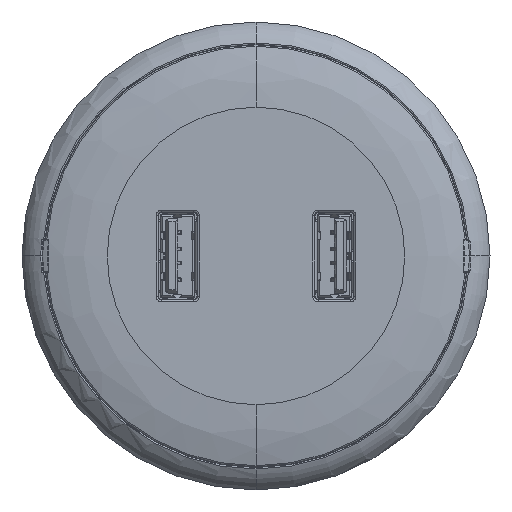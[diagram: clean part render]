
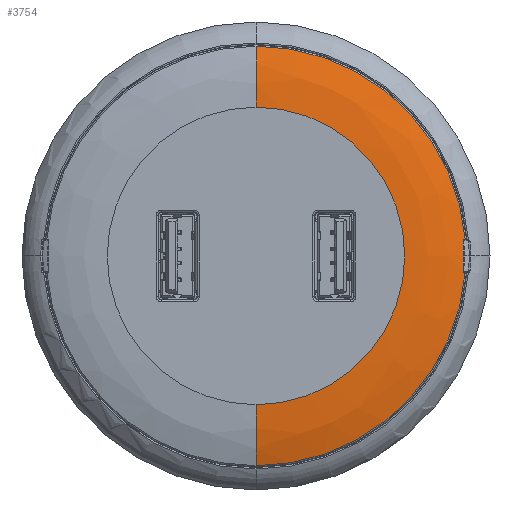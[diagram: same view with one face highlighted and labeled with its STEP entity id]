
A CAD part, top view. The second image highlights one B-rep face of the part: STEP entity #3754.
In plain terms, the highlighted free-form (B-spline) face has degree [3, 3] with [4, 4] control points.
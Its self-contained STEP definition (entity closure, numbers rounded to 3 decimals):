
#629 = CARTESIAN_POINT ( 'NONE',  ( 0., -25.808, 4. ) ) ;
#1438 = ORIENTED_EDGE ( 'NONE', *, *, #25999, .T. ) ;
#1520 = B_SPLINE_CURVE_WITH_KNOTS ( 'NONE', 3,
 ( #34685, #68701, #3364, #46438, #22935, #75265 ),
 .UNSPECIFIED., .F., .F.,
 ( 4, 2, 4 ),
 ( 0., 0., 0.001 ),
 .UNSPECIFIED. ) ;
#1726 = DIRECTION ( 'NONE',  ( 1., 0., 0. ) ) ;
#2134 = EDGE_LOOP ( 'NONE', ( #18185, #40198, #50614, #3885, #17894, #1438, #26773, #25189, #27222 ) ) ;
#3364 = CARTESIAN_POINT ( 'NONE',  ( 30.881, -2.464, 2.674 ) ) ;
#3533 = AXIS2_PLACEMENT_3D ( 'NONE', #35523, #73501, #74815 ) ;
#3754 = ADVANCED_FACE ( 'NONE', ( #26702 ), #12175, .F. ) ;
#3867 = CIRCLE ( 'NONE', #12351, 31.148 ) ;
#3885 = ORIENTED_EDGE ( 'NONE', *, *, #51748, .F. ) ;
#4420 = CARTESIAN_POINT ( 'NONE',  ( 30.749, -2.143, 2.726 ) ) ;
#4603 = CARTESIAN_POINT ( 'NONE',  ( 0., -25.808, 4. ) ) ;
#4825 = CARTESIAN_POINT ( 'NONE',  ( 30.96, 2.51, 2.647 ) ) ;
#5884 = CARTESIAN_POINT ( 'NONE',  ( 0., -31.148, 2.617 ) ) ;
#7659 = DIRECTION ( 'NONE',  ( 1., 0., 0. ) ) ;
#9682 = CARTESIAN_POINT ( 'NONE',  ( 0., 0., 2.726 ) ) ;
#12175 =( BOUNDED_SURFACE ( )  B_SPLINE_SURFACE ( 3, 3, ( 
 ( #72530, #25370, #59414, #27978 ),
 ( #79162, #20172, #35841, #43734 ),
 ( #629, #24078, #46310, #21469 ),
 ( #67282, #69901, #31939, #41121 ) ),
 .UNSPECIFIED., .F., .F., .F. ) 
 B_SPLINE_SURFACE_WITH_KNOTS ( ( 4, 4 ),
 ( 4, 4 ),
 ( 0.524, 1. ),
 ( 0., 1. ),
 .UNSPECIFIED. ) 
 GEOMETRIC_REPRESENTATION_ITEM ( )  RATIONAL_B_SPLINE_SURFACE ( (
 ( 1., 0.333, 0.333, 1.),
 ( 1., 0.333, 0.333, 1.),
 ( 1., 0.333, 0.333, 1.),
 ( 1., 0.333, 0.333, 1.) ) ) 
 REPRESENTATION_ITEM ( '' )  SURFACE ( )  );
#12351 = AXIS2_PLACEMENT_3D ( 'NONE', #50718, #74307, #7659 ) ;
#14219 = AXIS2_PLACEMENT_3D ( 'NONE', #63066, #27735, #1726 ) ;
#15165 = CARTESIAN_POINT ( 'NONE',  ( 0., 22.1, 4. ) ) ;
#15344 = CARTESIAN_POINT ( 'NONE',  ( 31.045, -2.524, 2.617 ) ) ;
#16534 = CARTESIAN_POINT ( 'NONE',  ( 31.045, 2.524, 2.617 ) ) ;
#16632 = B_SPLINE_CURVE_WITH_KNOTS ( 'NONE', 3,
 ( #5884, #62058, #4603, #50315 ),
 .UNSPECIFIED., .F., .F.,
 ( 4, 4 ),
 ( 0.524, 1. ),
 .UNSPECIFIED. ) ;
#17894 = ORIENTED_EDGE ( 'NONE', *, *, #44122, .T. ) ;
#18185 = ORIENTED_EDGE ( 'NONE', *, *, #60612, .T. ) ;
#20172 = CARTESIAN_POINT ( 'NONE',  ( 57.813, -28.907, 3.395 ) ) ;
#21469 = CARTESIAN_POINT ( 'NONE',  ( 0., 25.808, 4. ) ) ;
#21479 = DIRECTION ( 'NONE',  ( 0., 0., 1. ) ) ;
#22935 = CARTESIAN_POINT ( 'NONE',  ( 30.742, -2.234, 2.726 ) ) ;
#24078 = CARTESIAN_POINT ( 'NONE',  ( 51.616, -25.808, 4. ) ) ;
#25189 = ORIENTED_EDGE ( 'NONE', *, *, #39102, .T. ) ;
#25370 = CARTESIAN_POINT ( 'NONE',  ( 62.295, -31.148, 2.617 ) ) ;
#25681 = VERTEX_POINT ( 'NONE', #4420 ) ;
#25999 = EDGE_CURVE ( 'NONE', #39336, #25681, #1520, .T. ) ;
#26184 = CARTESIAN_POINT ( 'NONE',  ( 0., -31.148, 2.617 ) ) ;
#26685 = B_SPLINE_CURVE_WITH_KNOTS ( 'NONE', 3,
 ( #45250, #79416, #76758, #41361, #4825, #16534 ),
 .UNSPECIFIED., .F., .F.,
 ( 4, 2, 4 ),
 ( 0., 0., 0.001 ),
 .UNSPECIFIED. ) ;
#26702 = FACE_OUTER_BOUND ( 'NONE', #2134, .T. ) ;
#26713 = DIRECTION ( 'NONE',  ( 1., 0., 0. ) ) ;
#26773 = ORIENTED_EDGE ( 'NONE', *, *, #55342, .T. ) ;
#27122 = CARTESIAN_POINT ( 'NONE',  ( 0., 31.148, 2.617 ) ) ;
#27222 = ORIENTED_EDGE ( 'NONE', *, *, #75769, .T. ) ;
#27735 = DIRECTION ( 'NONE',  ( 0., 0., 1. ) ) ;
#27978 = CARTESIAN_POINT ( 'NONE',  ( 0., 31.148, 2.617 ) ) ;
#28020 = VERTEX_POINT ( 'NONE', #79096 ) ;
#31319 = VERTEX_POINT ( 'NONE', #15165 ) ;
#31939 = CARTESIAN_POINT ( 'NONE',  ( 44.2, 22.1, 4. ) ) ;
#32316 = VERTEX_POINT ( 'NONE', #69066 ) ;
#34685 = CARTESIAN_POINT ( 'NONE',  ( 31.045, -2.524, 2.617 ) ) ;
#34982 = CIRCLE ( 'NONE', #51987, 30.823 ) ;
#35523 = CARTESIAN_POINT ( 'NONE',  ( 0., 0., 4. ) ) ;
#35841 = CARTESIAN_POINT ( 'NONE',  ( 57.813, 28.907, 3.395 ) ) ;
#36176 = AXIS2_PLACEMENT_3D ( 'NONE', #9682, #38412, #76382 ) ;
#38412 = DIRECTION ( 'NONE',  ( 0., 0., 1. ) ) ;
#39102 = EDGE_CURVE ( 'NONE', #54488, #32316, #34982, .T. ) ;
#39336 = VERTEX_POINT ( 'NONE', #15344 ) ;
#40198 = ORIENTED_EDGE ( 'NONE', *, *, #60777, .T. ) ;
#41121 = CARTESIAN_POINT ( 'NONE',  ( 0., 22.1, 4. ) ) ;
#41361 = CARTESIAN_POINT ( 'NONE',  ( 30.881, 2.463, 2.675 ) ) ;
#43734 = CARTESIAN_POINT ( 'NONE',  ( 0., 28.907, 3.395 ) ) ;
#44122 = EDGE_CURVE ( 'NONE', #79520, #39336, #59208, .T. ) ;
#44580 = CARTESIAN_POINT ( 'NONE',  ( 0., 25.808, 4. ) ) ;
#45250 = CARTESIAN_POINT ( 'NONE',  ( 30.749, 2.143, 2.726 ) ) ;
#46310 = CARTESIAN_POINT ( 'NONE',  ( 51.616, 25.808, 4. ) ) ;
#46438 = CARTESIAN_POINT ( 'NONE',  ( 30.772, -2.325, 2.715 ) ) ;
#46985 = B_SPLINE_CURVE_WITH_KNOTS ( 'NONE', 3,
 ( #48474, #47144, #44580, #60243 ),
 .UNSPECIFIED., .F., .F.,
 ( 4, 4 ),
 ( 0.524, 1. ),
 .UNSPECIFIED. ) ;
#47144 = CARTESIAN_POINT ( 'NONE',  ( 0., 28.907, 3.395 ) ) ;
#48447 = CIRCLE ( 'NONE', #3533, 22.1 ) ;
#48474 = CARTESIAN_POINT ( 'NONE',  ( 0., 31.148, 2.617 ) ) ;
#50315 = CARTESIAN_POINT ( 'NONE',  ( 0., -22.1, 4. ) ) ;
#50614 = ORIENTED_EDGE ( 'NONE', *, *, #60986, .F. ) ;
#50718 = CARTESIAN_POINT ( 'NONE',  ( 0., 0., 2.617 ) ) ;
#51748 = EDGE_CURVE ( 'NONE', #79520, #75058, #16632, .T. ) ;
#51987 = AXIS2_PLACEMENT_3D ( 'NONE', #76524, #21479, #26713 ) ;
#54488 = VERTEX_POINT ( 'NONE', #56984 ) ;
#55342 = EDGE_CURVE ( 'NONE', #25681, #54488, #66734, .T. ) ;
#56984 = CARTESIAN_POINT ( 'NONE',  ( 30.823, 0., 2.726 ) ) ;
#57541 = VERTEX_POINT ( 'NONE', #27122 ) ;
#59208 = CIRCLE ( 'NONE', #14219, 31.148 ) ;
#59414 = CARTESIAN_POINT ( 'NONE',  ( 62.295, 31.148, 2.617 ) ) ;
#60243 = CARTESIAN_POINT ( 'NONE',  ( 0., 22.1, 4. ) ) ;
#60612 = EDGE_CURVE ( 'NONE', #28020, #57541, #3867, .T. ) ;
#60777 = EDGE_CURVE ( 'NONE', #57541, #31319, #46985, .T. ) ;
#60986 = EDGE_CURVE ( 'NONE', #75058, #31319, #48447, .T. ) ;
#62058 = CARTESIAN_POINT ( 'NONE',  ( 0., -28.907, 3.395 ) ) ;
#63066 = CARTESIAN_POINT ( 'NONE',  ( 0., 0., 2.617 ) ) ;
#66734 = CIRCLE ( 'NONE', #36176, 30.823 ) ;
#67282 = CARTESIAN_POINT ( 'NONE',  ( 0., -22.1, 4. ) ) ;
#68701 = CARTESIAN_POINT ( 'NONE',  ( 30.96, -2.51, 2.647 ) ) ;
#69066 = CARTESIAN_POINT ( 'NONE',  ( 30.749, 2.143, 2.726 ) ) ;
#69901 = CARTESIAN_POINT ( 'NONE',  ( 44.2, -22.1, 4. ) ) ;
#70986 = CARTESIAN_POINT ( 'NONE',  ( 0., -22.1, 4. ) ) ;
#72530 = CARTESIAN_POINT ( 'NONE',  ( 0., -31.148, 2.617 ) ) ;
#73501 = DIRECTION ( 'NONE',  ( 0., 0., 1. ) ) ;
#74307 = DIRECTION ( 'NONE',  ( 0., 0., 1. ) ) ;
#74815 = DIRECTION ( 'NONE',  ( 1., 0., 0. ) ) ;
#75058 = VERTEX_POINT ( 'NONE', #70986 ) ;
#75265 = CARTESIAN_POINT ( 'NONE',  ( 30.749, -2.143, 2.726 ) ) ;
#75769 = EDGE_CURVE ( 'NONE', #32316, #28020, #26685, .T. ) ;
#76382 = DIRECTION ( 'NONE',  ( 1., 0., 0. ) ) ;
#76524 = CARTESIAN_POINT ( 'NONE',  ( 0., 0., 2.726 ) ) ;
#76758 = CARTESIAN_POINT ( 'NONE',  ( 30.772, 2.325, 2.714 ) ) ;
#79096 = CARTESIAN_POINT ( 'NONE',  ( 31.045, 2.524, 2.617 ) ) ;
#79162 = CARTESIAN_POINT ( 'NONE',  ( 0., -28.907, 3.395 ) ) ;
#79416 = CARTESIAN_POINT ( 'NONE',  ( 30.742, 2.234, 2.726 ) ) ;
#79520 = VERTEX_POINT ( 'NONE', #26184 ) ;
